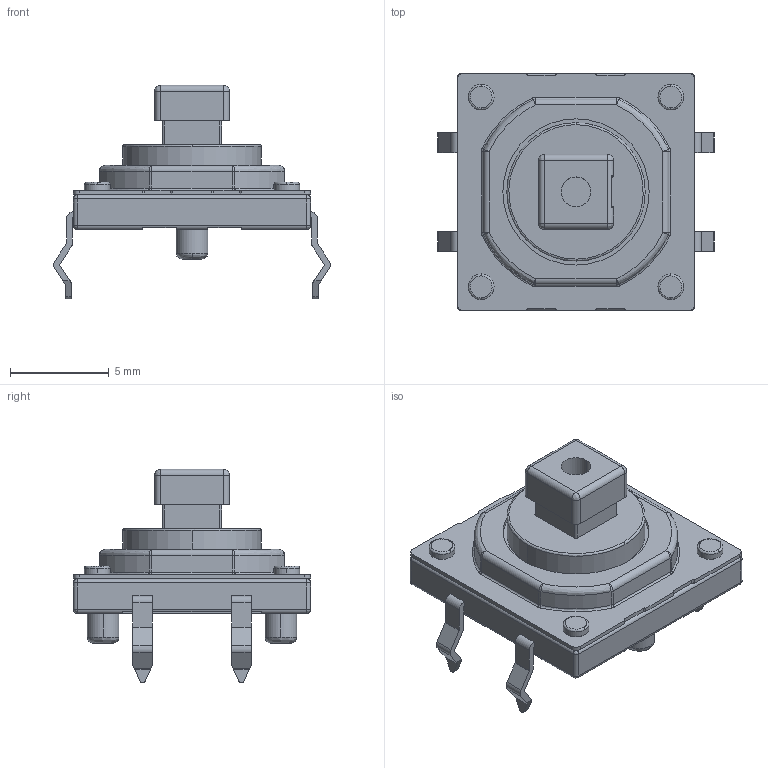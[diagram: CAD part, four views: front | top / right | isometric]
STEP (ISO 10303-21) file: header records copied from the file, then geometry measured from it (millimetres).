
FILE_DESCRIPTION (( 'STEP AP214' ), '1' );
FILE_NAME ('SKQEAC.STEP', '2012-09-25T03:54:19', ( ' ' ), ( '' ), 'SwSTEP 2.0', 'SolidWorks 2010', '' );
FILE_SCHEMA (( 'AUTOMOTIVE_DESIGN' ));
Length unit declared in the file: millimetre
Products named in the file (1): SKQEAC
Bounding box: 14 x 12 x 10.8 mm (x, y, z)
Volume: 454.9 mm3; surface area: 651.3 mm2
Topology: 1 solids, 1 shells, 304 faces, 773 edges, 474 vertices
Faces by surface type: cylinder 131, plane 121, bspline 52
Entity records: 13023 total; most frequent: CARTESIAN_POINT 2490, DIRECTION 1519, ORIENTED_EDGE 1514, EDGE_CURVE 757, AXIS2_PLACEMENT_3D 559, VERTEX_POINT 474, LINE 401, VECTOR 401
